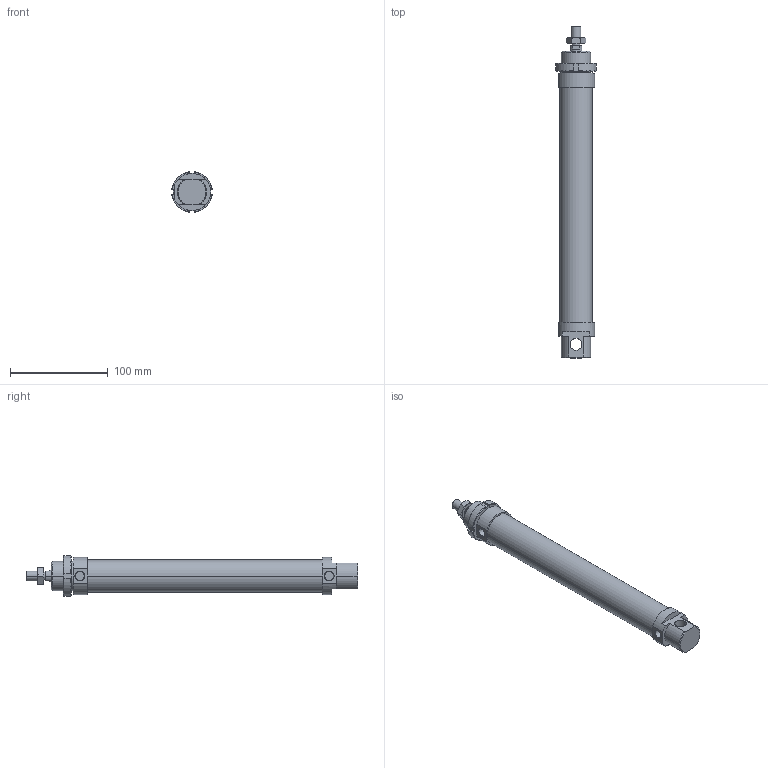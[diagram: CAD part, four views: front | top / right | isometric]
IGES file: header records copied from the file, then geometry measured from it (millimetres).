
Global section: file name: No Iges File Name specified; native system: AutoDesk Inventor R6.0; preprocessor: AutoDesk Inventor Iges Exporter R6.0; author: No Author specified; organization: No Organization specified; date: 20030407.191816; units: millimetre
Bounding box: 41.7 x 339 x 41.7 mm (x, y, z)
Volume: 279029.4 mm3; surface area: 59688 mm2
Topology: 4 solids, 4 shells, 122 faces, 286 edges, 180 vertices
Faces by surface type: plane 44, cone 30, cylinder 22, bspline 20, revolution 6
